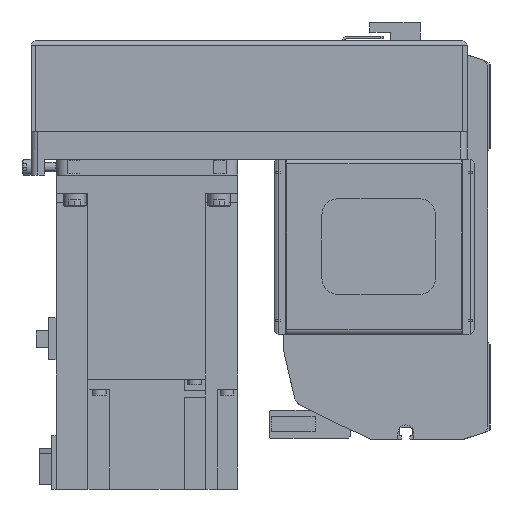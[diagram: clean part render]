
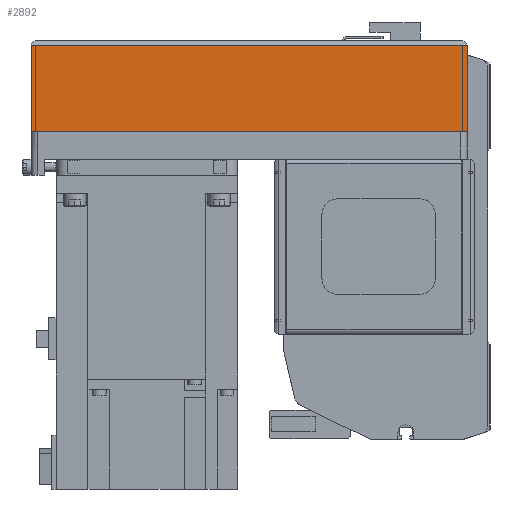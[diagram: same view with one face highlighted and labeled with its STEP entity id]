
A CAD part, left-side view. The second image highlights one B-rep face of the part: STEP entity #2892.
In plain terms, the highlighted planar face has unit normal (-1, 0, 0) as drawn and (0, 1, 0) by its records, which use the part's own axes.
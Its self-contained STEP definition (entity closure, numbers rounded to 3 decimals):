
#2892 = ADVANCED_FACE( '', ( #6167 ), #6168, .T. );
#6167 = FACE_OUTER_BOUND( '', #9723, .T. );
#6168 = PLANE( '', #9724 );
#9723 = EDGE_LOOP( '', ( #17953, #17954, #17955, #17956 ) );
#9724 = AXIS2_PLACEMENT_3D( '', #17957, #17958, #17959 );
#17953 = ORIENTED_EDGE( '', *, *, #23337, .F. );
#17954 = ORIENTED_EDGE( '', *, *, #23338, .F. );
#17955 = ORIENTED_EDGE( '', *, *, #23258, .T. );
#17956 = ORIENTED_EDGE( '', *, *, #23339, .T. );
#17957 = CARTESIAN_POINT( '', ( -192., 40., -50. ) );
#17958 = DIRECTION( '', ( 0., 1., 0. ) );
#17959 = DIRECTION( '', ( 0., 0., 1. ) );
#23258 = EDGE_CURVE( '', #25111, #28469, #28688, .T. );
#23337 = EDGE_CURVE( '', #26105, #27655, #28782, .T. );
#23338 = EDGE_CURVE( '', #25111, #26105, #28783, .T. );
#23339 = EDGE_CURVE( '', #28469, #27655, #28784, .T. );
#25111 = VERTEX_POINT( '', #31257 );
#26105 = VERTEX_POINT( '', #32865 );
#27655 = VERTEX_POINT( '', #35325 );
#28469 = VERTEX_POINT( '', #36520 );
#28688 = LINE( '', #36872, #36873 );
#28782 = LINE( '', #36999, #37000 );
#28783 = LINE( '', #37001, #37002 );
#28784 = LINE( '', #37003, #37004 );
#31257 = CARTESIAN_POINT( '', ( -192., 40., -50. ) );
#32865 = CARTESIAN_POINT( '', ( 0., 40., -50. ) );
#35325 = CARTESIAN_POINT( '', ( 0., 40., -12.1 ) );
#36520 = CARTESIAN_POINT( '', ( -192., 40., -12.1 ) );
#36872 = CARTESIAN_POINT( '', ( -192., 40., -50. ) );
#36873 = VECTOR( '', #41493, 1000. );
#36999 = CARTESIAN_POINT( '', ( 0., 40., -50. ) );
#37000 = VECTOR( '', #41558, 1000. );
#37001 = CARTESIAN_POINT( '', ( -192., 40., -50. ) );
#37002 = VECTOR( '', #41559, 1000. );
#37003 = CARTESIAN_POINT( '', ( -192., 40., -12.1 ) );
#37004 = VECTOR( '', #41560, 1000. );
#41493 = DIRECTION( '', ( 0., 0., 1. ) );
#41558 = DIRECTION( '', ( 0., 0., 1. ) );
#41559 = DIRECTION( '', ( 1., 0., 0. ) );
#41560 = DIRECTION( '', ( 1., 0., 0. ) );
